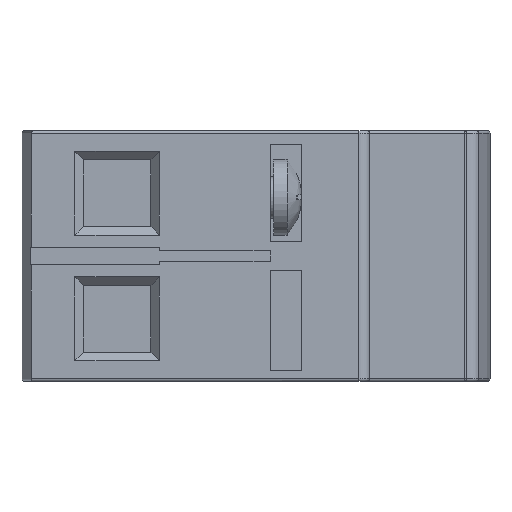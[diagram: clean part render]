
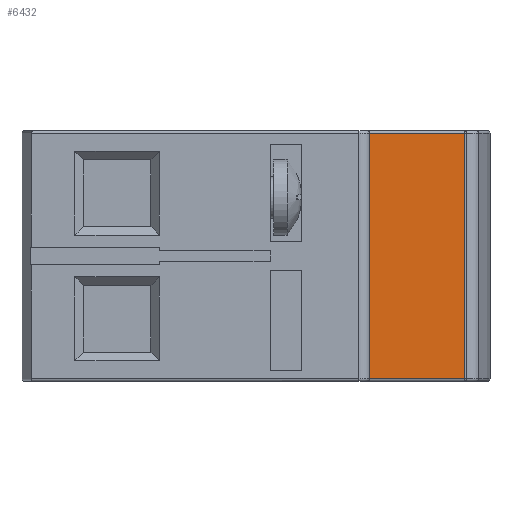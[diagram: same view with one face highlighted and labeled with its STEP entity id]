
A CAD part, left-side view. The second image highlights one B-rep face of the part: STEP entity #6432.
In plain terms, the highlighted planar face has unit normal (-1, 0, 0).
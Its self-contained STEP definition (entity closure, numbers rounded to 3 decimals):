
#32 = CARTESIAN_POINT ( 'NONE',  ( 64.746, -73.125, 35.6 ) ) ;
#377 = CARTESIAN_POINT ( 'NONE',  ( 64.746, -59.619, 35.6 ) ) ;
#878 = CARTESIAN_POINT ( 'NONE',  ( 64.746, -59.619, 35.2 ) ) ;
#1192 = AXIS2_PLACEMENT_3D ( 'NONE', #377, #8291, #1498 ) ;
#1498 = DIRECTION ( 'NONE',  ( 0., 1., 0. ) ) ;
#1516 = CARTESIAN_POINT ( 'NONE',  ( 64.746, -59.619, 35.6 ) ) ;
#2004 = DIRECTION ( 'NONE',  ( 0., 1., 0. ) ) ;
#2299 = DIRECTION ( 'NONE',  ( 0., 0., -1. ) ) ;
#4461 = CARTESIAN_POINT ( 'NONE',  ( 64.746, -59.619, 35.2 ) ) ;
#4658 = ORIENTED_EDGE ( 'NONE', *, *, #13459, .T. ) ;
#4908 = DIRECTION ( 'NONE',  ( 0., -1., 0. ) ) ;
#5457 = CARTESIAN_POINT ( 'NONE',  ( 64.746, -73.125, 0.4 ) ) ;
#6080 = CARTESIAN_POINT ( 'NONE',  ( 64.746, -59.619, 0.4 ) ) ;
#6123 = EDGE_CURVE ( 'NONE', #10585, #7580, #13978, .T. ) ;
#6160 = LINE ( 'NONE', #11708, #11450 ) ;
#6432 = ADVANCED_FACE ( 'NONE', ( #13114 ), #10491, .F. ) ;
#6666 = LINE ( 'NONE', #878, #12690 ) ;
#7190 = EDGE_LOOP ( 'NONE', ( #8777, #13084, #9789, #4658 ) ) ;
#7580 = VERTEX_POINT ( 'NONE', #6080 ) ;
#7829 = LINE ( 'NONE', #32, #10832 ) ;
#8291 = DIRECTION ( 'NONE',  ( 1., 0., 0. ) ) ;
#8777 = ORIENTED_EDGE ( 'NONE', *, *, #10614, .F. ) ;
#9645 = CARTESIAN_POINT ( 'NONE',  ( 64.746, -73.125, 35.2 ) ) ;
#9789 = ORIENTED_EDGE ( 'NONE', *, *, #6123, .T. ) ;
#10491 = PLANE ( 'NONE',  #1192 ) ;
#10509 = EDGE_CURVE ( 'NONE', #10919, #10585, #6666, .T. ) ;
#10585 = VERTEX_POINT ( 'NONE', #4461 ) ;
#10614 = EDGE_CURVE ( 'NONE', #10919, #11657, #7829, .T. ) ;
#10832 = VECTOR ( 'NONE', #2299, 1000. ) ;
#10919 = VERTEX_POINT ( 'NONE', #9645 ) ;
#10988 = VECTOR ( 'NONE', #13918, 1000. ) ;
#11450 = VECTOR ( 'NONE', #4908, 1000. ) ;
#11657 = VERTEX_POINT ( 'NONE', #5457 ) ;
#11708 = CARTESIAN_POINT ( 'NONE',  ( 64.746, -59.619, 0.4 ) ) ;
#12690 = VECTOR ( 'NONE', #2004, 1000. ) ;
#13084 = ORIENTED_EDGE ( 'NONE', *, *, #10509, .T. ) ;
#13114 = FACE_OUTER_BOUND ( 'NONE', #7190, .T. ) ;
#13459 = EDGE_CURVE ( 'NONE', #7580, #11657, #6160, .T. ) ;
#13918 = DIRECTION ( 'NONE',  ( 0., 0., -1. ) ) ;
#13978 = LINE ( 'NONE', #1516, #10988 ) ;
